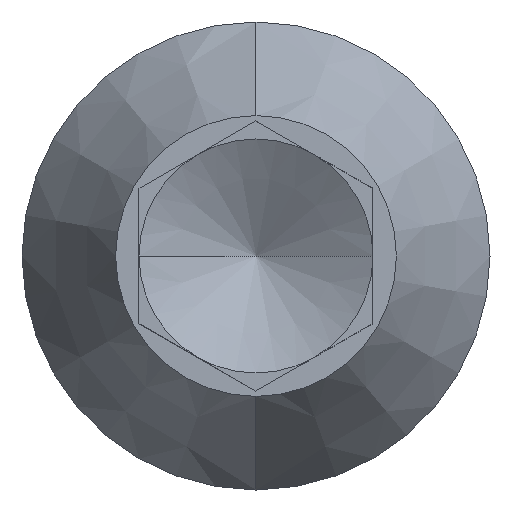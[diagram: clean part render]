
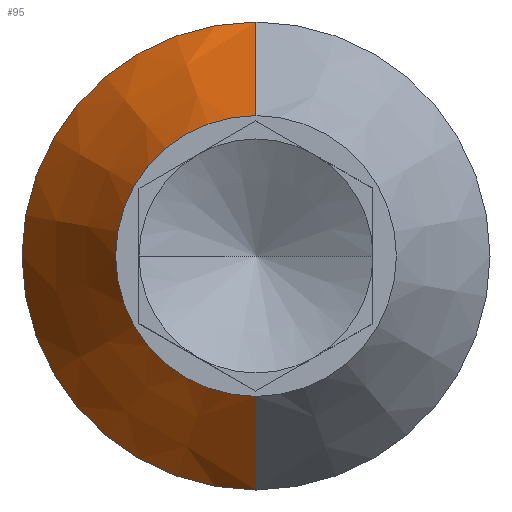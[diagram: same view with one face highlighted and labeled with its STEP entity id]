
A CAD part, left-side view. The second image highlights one B-rep face of the part: STEP entity #95.
In plain terms, the highlighted conical face has half-angle 30 degrees and reference radius 3.175 mm.
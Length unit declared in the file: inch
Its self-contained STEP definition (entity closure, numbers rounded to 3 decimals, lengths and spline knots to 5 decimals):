
#94 = EDGE_LOOP ( 'NONE', ( #198, #200, #201, #248 ) ) ;
#95 = ADVANCED_FACE ( 'NONE', ( #583 ), #582, .T. ) ;
#125 = EDGE_CURVE ( 'NONE', #205, #203, #647, .T. ) ;
#126 = EDGE_CURVE ( 'NONE', #204, #199, #642, .T. ) ;
#198 = ORIENTED_EDGE ( 'NONE', *, *, #125, .F. ) ;
#199 = VERTEX_POINT ( 'NONE', #773 ) ;
#200 = ORIENTED_EDGE ( 'NONE', *, *, #202, .T. ) ;
#201 = ORIENTED_EDGE ( 'NONE', *, *, #126, .F. ) ;
#202 = EDGE_CURVE ( 'NONE', #205, #199, #772, .T. ) ;
#203 = VERTEX_POINT ( 'NONE', #768 ) ;
#204 = VERTEX_POINT ( 'NONE', #767 ) ;
#205 = VERTEX_POINT ( 'NONE', #766 ) ;
#248 = ORIENTED_EDGE ( 'NONE', *, *, #249, .F. ) ;
#249 = EDGE_CURVE ( 'NONE', #203, #204, #831, .T. ) ;
#578 = DIRECTION ( 'NONE',  ( 0., 0., -1. ) ) ;
#579 = DIRECTION ( 'NONE',  ( 1., 0., 0. ) ) ;
#580 = AXIS2_PLACEMENT_3D ( 'NONE', #581, #579, #578 ) ;
#581 = CARTESIAN_POINT ( 'NONE',  ( 0.0866, 0., 0. ) ) ;
#582 = CONICAL_SURFACE ( 'NONE', #580, 0.125, 0.524 ) ;
#583 = FACE_OUTER_BOUND ( 'NONE', #94, .T. ) ;
#639 = DIRECTION ( 'NONE',  ( 0., 0., -1. ) ) ;
#640 = DIRECTION ( 'NONE',  ( 1., 0., 0. ) ) ;
#641 = AXIS2_PLACEMENT_3D ( 'NONE', #648, #640, #639 ) ;
#642 = CIRCLE ( 'NONE', #641, 0.125 ) ;
#643 = DIRECTION ( 'NONE',  ( 0., 0., -1. ) ) ;
#644 = DIRECTION ( 'NONE',  ( -1., 0., 0. ) ) ;
#645 = CARTESIAN_POINT ( 'NONE',  ( 0., 0., 0. ) ) ;
#646 = AXIS2_PLACEMENT_3D ( 'NONE', #645, #644, #643 ) ;
#647 = CIRCLE ( 'NONE', #646, 0.075 ) ;
#648 = CARTESIAN_POINT ( 'NONE',  ( 0.0866, 0., 0. ) ) ;
#766 = CARTESIAN_POINT ( 'NONE',  ( 0., 0., 0.075 ) ) ;
#767 = CARTESIAN_POINT ( 'NONE',  ( 0.0866, 0., -0.125 ) ) ;
#768 = CARTESIAN_POINT ( 'NONE',  ( 0., 0., -0.075 ) ) ;
#769 = DIRECTION ( 'NONE',  ( 0.866, 0., 0.5 ) ) ;
#770 = VECTOR ( 'NONE', #769, 39.37008 ) ;
#771 = CARTESIAN_POINT ( 'NONE',  ( 0.0866, 0., 0.125 ) ) ;
#772 = LINE ( 'NONE', #771, #770 ) ;
#773 = CARTESIAN_POINT ( 'NONE',  ( 0.0866, 0., 0.125 ) ) ;
#828 = DIRECTION ( 'NONE',  ( 0.866, 0., -0.5 ) ) ;
#829 = VECTOR ( 'NONE', #828, 39.37008 ) ;
#830 = CARTESIAN_POINT ( 'NONE',  ( 0.0866, 0., -0.125 ) ) ;
#831 = LINE ( 'NONE', #830, #829 ) ;
